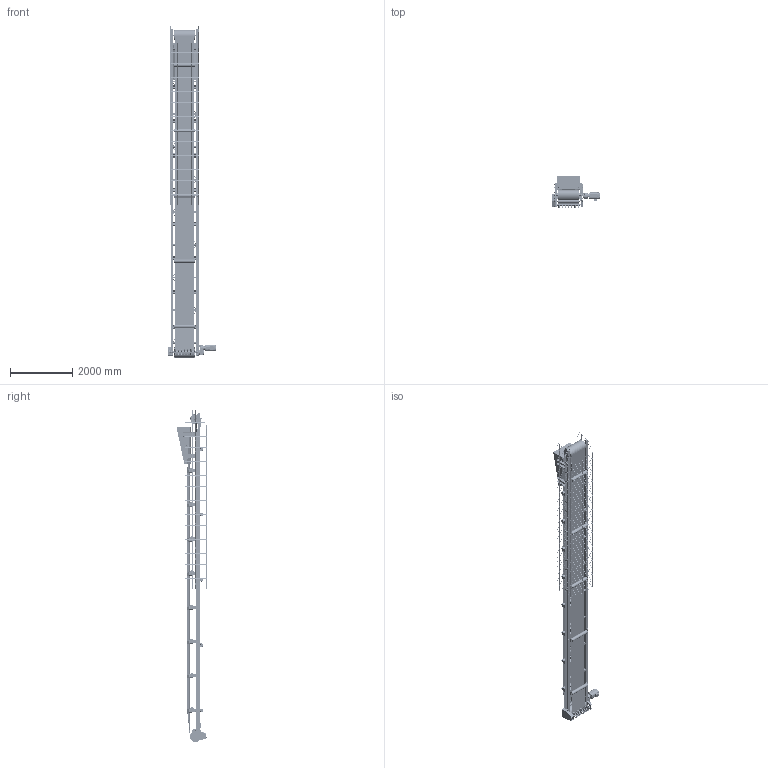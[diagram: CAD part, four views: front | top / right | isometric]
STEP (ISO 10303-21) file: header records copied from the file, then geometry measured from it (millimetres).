
FILE_DESCRIPTION(('www.ebm.co.nz'),'2;1');
FILE_NAME('F:\EB McDONALD\Jobs 10001-10500\10192 Superior Feed Conveyor\Designs\Imported Components\01-0100-00 Feed Out Conveyor Assembly.jpg.stp','2012-07-10T08:26:02',('Nick Wansink'),('EB''s Engineering'),'Autodesk Inventor 2012','Autodesk Inventor 2012','');
FILE_SCHEMA(('AUTOMOTIVE_DESIGN { 1 0 10303 214 1 1 1 1 }'));
Length unit declared in the file: millimetre
Products named in the file (106): 01-0100-00 Feed Out Conveyor Assembly; 01-0101-00 Conveyor Frame; 01-0101-01 Conveyor Side Channel; 01-0101-02 Conveyor LH Side Channel; 01-0101-03 Bearing Slot Plate; 01-0101-04 Bearing Adjustment Plate; 01-0101-05 Bearing End Cap; 01-0101-06 Cross Brace; 01-0101-08 Drive Bearing Mount; 01-0101-07 Top Bearing Infill Plate; 01-0101-09 Drive End Cap; 01-0101-10 Diagonal Brace; 01-0101-11 Trough Mount Post; 01-0101-12 Torque Arm; 01-0102-00 Bearing Mount Assembly; 01-0102-01 Bearing Mount Plate; 01-0102-02 Bearing Fixing Stud; 01-0102-03 Bearing Adjuster Stud; M1-A1-S6 Tail Roller; M1-A1-S6-P1 Tail Shaft; M1-A1-S6-P2 Tail Roller; M1-A1-S6-P3 Tail Plate; M1-A1-S7 Drive Roller; M1-A1-S7-P1 Drive Shaft; M1-A1-S7-P2 Drive Roller; M1-A1-S7-P3 Drive Plate; Roller Lagging; Tyton A25-62 Trough Roller Assembly; Trough Roller Frame; Trough Roll; Nyloc Nut, ZP M12; SY 40 TF; SY 40 TF_PART1; SY 40 TF_PART2; SY 40 TF_PART4; Idler Roller Mount; KRR114-600 Return Roller; 600mm Belt; Nut, ZP M16; FA57DRE132S4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
Assembly tree (447 placements, depth 3):
  01-0100-00 Feed Out Conveyor Assembly
    01-0101-00 Conveyor Frame
      01-0101-01 Conveyor Side Channel
      01-0101-02 Conveyor LH Side Channel
      01-0101-03 Bearing Slot Plate  x2
      01-0101-04 Bearing Adjustment Plate  x2
      01-0101-05 Bearing End Cap  x2
      01-0101-06 Cross Brace  x10
      01-0101-08 Drive Bearing Mount  x2
      01-0101-07 Top Bearing Infill Plate  x2
      01-0101-09 Drive End Cap  x2
      01-0101-10 Diagonal Brace  x9
      01-0101-11 Trough Mount Post  x4
      01-0101-12 Torque Arm
    01-0102-00 Bearing Mount Assembly  x2
      01-0102-01 Bearing Mount Plate
      01-0102-02 Bearing Fixing Stud
      01-0102-03 Bearing Adjuster Stud
    M1-A1-S6 Tail Roller
      M1-A1-S6-P1 Tail Shaft
      M1-A1-S6-P2 Tail Roller
      M1-A1-S6-P3 Tail Plate  x2
    M1-A1-S7 Drive Roller
      M1-A1-S7-P1 Drive Shaft
      M1-A1-S7-P2 Drive Roller
      M1-A1-S7-P3 Drive Plate  x2
      Roller Lagging
    Tyton A25-62 Trough Roller Assembly  x8
      Trough Roller Frame
      Trough Roll
    Nyloc Nut, ZP M12  x60
    SY 40 TF  x4
      SY 40 TF_PART1
      SY 40 TF_PART2
      SY 40 TF_PART4
    Idler Roller Mount  x10
    KRR114-600 Return Roller  x5
    600mm Belt
    Nut, ZP M16  x4
    FA57DRE132S4
      PRODUCT_NAME_1
      PRODUCT_NAME_2
      PRODUCT_NAME_3
      PRODUCT_NAME_4
      PRODUCT_NAME_5
      PRODUCT_NAME_6
      PRODUCT_NAME_7
      PRODUCT_NAME_8
      PRODUCT_NAME_9
      PRODUCT_NAME_10
      PRODUCT_NAME_11
      PRODUCT_NAME_12
      PRODUCT_NAME_13
      PRODUCT_NAME_14
      PRODUCT_NAME_15
    01-0105-00 Mesh Guard Assembly  x4
      01-0105-01 Belt Guarding
      01-0105-03 Mesh Clamp Plate
    01-0109-00 Tail Mesh Guard
      01-0105-02 Bottom Belt Guard
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Bounding box: 1524.1 x 999.93 x 10673.14 mm (x, y, z)
Volume: 364305511 mm3; surface area: 73126477.8 mm2
Topology: 1424 solids, 1428 shells, 18403 faces, 40191 edges, 25553 vertices
Faces by surface type: plane 7988, cylinder 5611, cone 2142, bspline 2001, torus 602, sphere 59
Full cylindrical faces by diameter (mm): 3.5 x70, 4 x589, 4.917 x4, 5 x4, 6 x3, 6.02 x210, 6.647 x1, 7 x3, 7.5 x210, 8 x20, 8.376 x21, 8.4 x6, 9 x16, 10 x417, 10.106 x9, 10.5 x21, 11 x1, 11.284 x6, 12 x195, 12.6 x60, 12.74 x6, 13 x6, 13.835 x8, 14 x80, 14.756 x21, 16 x45, 16.4 x2, 16.492 x60, 16.66 x21, 18 x70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
Entity records: 223418 total; most frequent: CARTESIAN_POINT 79745, ORIENTED_EDGE 28460, DIRECTION 23517, EDGE_CURVE 14230, VERTEX_POINT 9942, AXIS2_PLACEMENT_3D 8943, EDGE_LOOP 8898, FACE_OUTER_BOUND 6981
